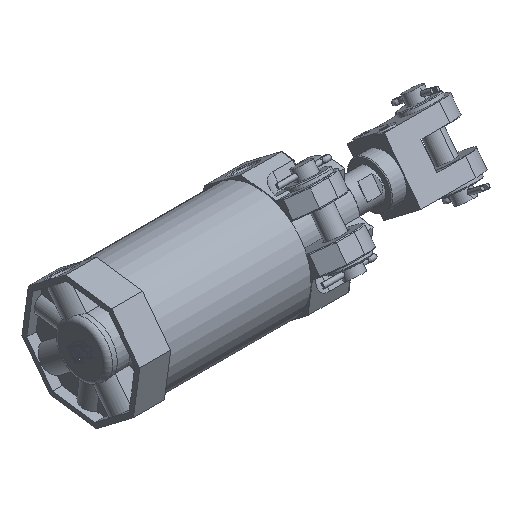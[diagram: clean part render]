
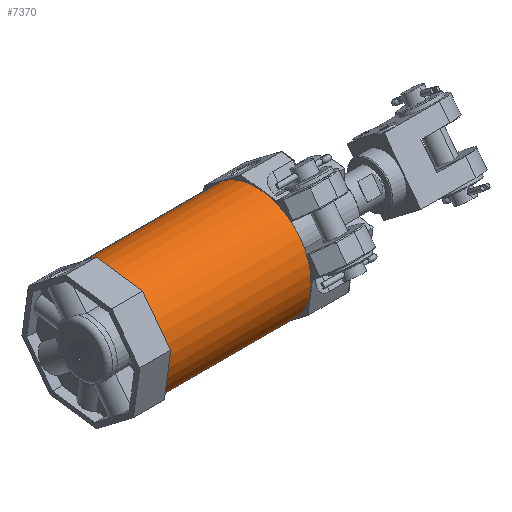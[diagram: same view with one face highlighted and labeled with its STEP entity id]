
A CAD part, isometric view. The second image highlights one B-rep face of the part: STEP entity #7370.
In plain terms, the highlighted cylindrical face has radius 35.5 mm (diameter 71 mm), a partial arc.
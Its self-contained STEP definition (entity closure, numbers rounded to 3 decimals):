
#7314=CARTESIAN_POINT('Axis2P3D Location',(46.5,0.,0.)) ;
#7319=CARTESIAN_POINT('Line Origine',(46.5,35.5,0.)) ;
#7323=CARTESIAN_POINT('Vertex',(0.,35.5,0.)) ;
#7325=CARTESIAN_POINT('Vertex',(93.,35.5,0.)) ;
#7332=CARTESIAN_POINT('Vertex',(0.,-35.5,0.)) ;
#7335=CARTESIAN_POINT('Line Origine',(46.5,-35.5,0.)) ;
#7339=CARTESIAN_POINT('Vertex',(93.,-35.5,0.)) ;
#7354=CARTESIAN_POINT('Axis2P3D Location',(0.,0.,0.)) ;
#7359=CARTESIAN_POINT('Axis2P3D Location',(93.,0.,0.)) ;
#7315=DIRECTION('Axis2P3D Direction',(1.,0.,0.)) ;
#7316=DIRECTION('Axis2P3D XDirection',(0.,1.,0.)) ;
#7320=DIRECTION('Vector Direction',(1.,0.,0.)) ;
#7336=DIRECTION('Vector Direction',(1.,0.,0.)) ;
#7355=DIRECTION('Axis2P3D Direction',(1.,0.,0.)) ;
#7360=DIRECTION('Axis2P3D Direction',(1.,0.,0.)) ;
#7317=AXIS2_PLACEMENT_3D('Cylinder Axis2P3D',#7314,#7315,#7316) ;
#7356=AXIS2_PLACEMENT_3D('Circle Axis2P3D',#7354,#7355,$) ;
#7361=AXIS2_PLACEMENT_3D('Circle Axis2P3D',#7359,#7360,$) ;
#7365=ORIENTED_EDGE('',*,*,#7341,.F.) ;
#7366=ORIENTED_EDGE('',*,*,#7358,.T.) ;
#7367=ORIENTED_EDGE('',*,*,#7327,.T.) ;
#7368=ORIENTED_EDGE('',*,*,#7363,.F.) ;
#7321=VECTOR('Line Direction',#7320,1.) ;
#7337=VECTOR('Line Direction',#7336,1.) ;
#7370=ADVANCED_FACE('PartBody',(#7369),#7318,.T.) ;
#7357=CIRCLE('generated circle',#7356,35.5) ;
#7362=CIRCLE('generated circle',#7361,35.5) ;
#7318=CYLINDRICAL_SURFACE('generated cylinder',#7317,35.5) ;
#7327=EDGE_CURVE('',#7324,#7326,#7322,.T.) ;
#7341=EDGE_CURVE('',#7333,#7340,#7338,.T.) ;
#7358=EDGE_CURVE('',#7333,#7324,#7357,.T.) ;
#7363=EDGE_CURVE('',#7340,#7326,#7362,.T.) ;
#7364=EDGE_LOOP('',(#7365,#7366,#7367,#7368)) ;
#7369=FACE_OUTER_BOUND('',#7364,.T.) ;
#7322=LINE('Line',#7319,#7321) ;
#7338=LINE('Line',#7335,#7337) ;
#7324=VERTEX_POINT('',#7323) ;
#7326=VERTEX_POINT('',#7325) ;
#7333=VERTEX_POINT('',#7332) ;
#7340=VERTEX_POINT('',#7339) ;
